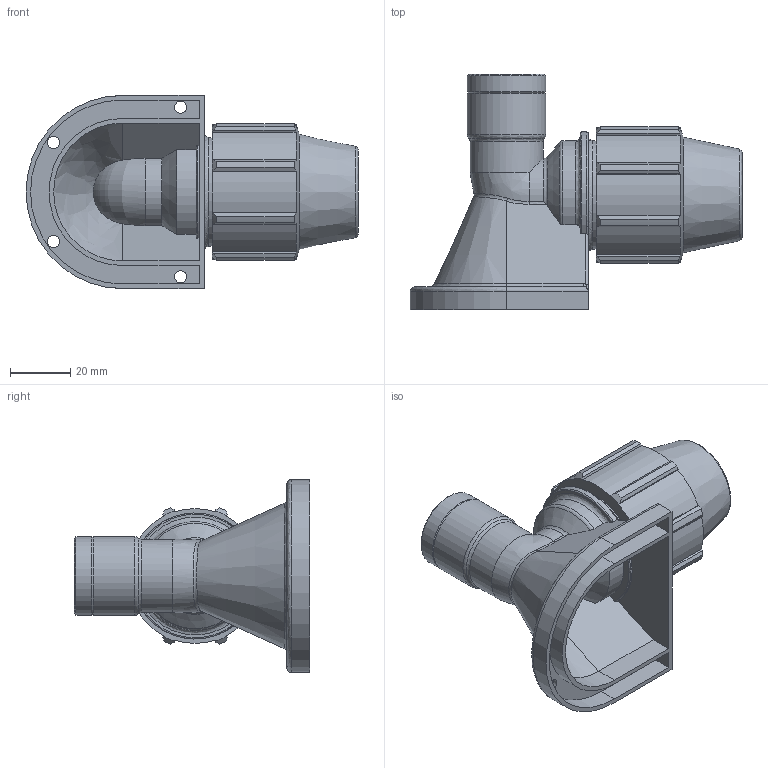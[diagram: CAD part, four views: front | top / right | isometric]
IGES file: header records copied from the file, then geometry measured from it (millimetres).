
Global section: file name: 077500020005__0775060200050A.ipt; native system: Autodesk Inventor 2015; preprocessor: unknown; author: KIM; date: 20170608.042253; units: millimetre
Bounding box: 110 x 78 x 64 mm (x, y, z)
Volume: 84889.1 mm3; surface area: 35999.8 mm2
Topology: 1 solids, 1 shells, 156 faces, 427 edges, 276 vertices
Faces by surface type: plane 66, cylinder 34, revolution 32, cone 15, bspline 9
Full cylindrical faces by diameter (mm): 24.22 x1, 26.083 x2, 36 x1
